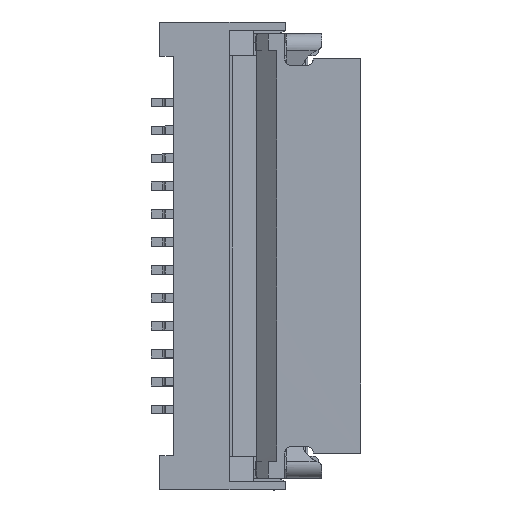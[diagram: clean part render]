
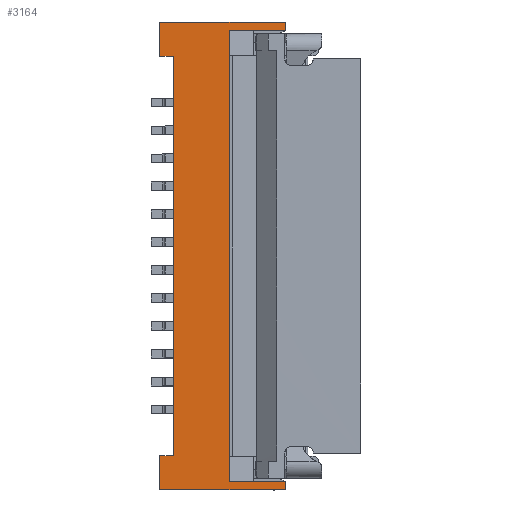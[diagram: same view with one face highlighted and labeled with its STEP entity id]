
A CAD part, top view. The second image highlights one B-rep face of the part: STEP entity #3164.
In plain terms, the highlighted planar face has unit normal (0, 0, 1).
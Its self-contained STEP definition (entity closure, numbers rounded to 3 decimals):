
#188 = CARTESIAN_POINT ( 'NONE',  ( -1.118, -3.776, -0.021 ) ) ;
#347 = VECTOR ( 'NONE', #13286, 1000. ) ;
#596 = DIRECTION ( 'NONE',  ( 0., 1., 0. ) ) ;
#614 = ORIENTED_EDGE ( 'NONE', *, *, #2924, .F. ) ;
#733 = LINE ( 'NONE', #5274, #1957 ) ;
#896 = PLANE ( 'NONE',  #5026 ) ;
#952 = ORIENTED_EDGE ( 'NONE', *, *, #14142, .T. ) ;
#1200 = CARTESIAN_POINT ( 'NONE',  ( 0.132, -11.386, -0.021 ) ) ;
#1308 = LINE ( 'NONE', #4665, #12135 ) ;
#1384 = EDGE_CURVE ( 'NONE', #12389, #5513, #6238, .T. ) ;
#1673 = VECTOR ( 'NONE', #5005, 1000. ) ;
#1835 = LINE ( 'NONE', #6376, #347 ) ;
#1957 = VECTOR ( 'NONE', #9804, 1000. ) ;
#2170 = VECTOR ( 'NONE', #6965, 1000. ) ;
#2193 = VECTOR ( 'NONE', #3763, 1000. ) ;
#2329 = EDGE_CURVE ( 'NONE', #5175, #12389, #7083, .T. ) ;
#2330 = ORIENTED_EDGE ( 'NONE', *, *, #3587, .F. ) ;
#2381 = ORIENTED_EDGE ( 'NONE', *, *, #10688, .T. ) ;
#2445 = VECTOR ( 'NONE', #4169, 1000. ) ;
#2454 = VECTOR ( 'NONE', #3917, 1000. ) ;
#2924 = EDGE_CURVE ( 'NONE', #5505, #11830, #11560, .T. ) ;
#2925 = EDGE_CURVE ( 'NONE', #11830, #8029, #8143, .T. ) ;
#2992 = EDGE_CURVE ( 'NONE', #4008, #14028, #1308, .T. ) ;
#3164 = ADVANCED_FACE ( 'NONE', ( #7577 ), #896, .F. ) ;
#3177 = ORIENTED_EDGE ( 'NONE', *, *, #7477, .F. ) ;
#3408 = DIRECTION ( 'NONE',  ( 0., 1., 0. ) ) ;
#3587 = EDGE_CURVE ( 'NONE', #8082, #6575, #733, .T. ) ;
#3749 = EDGE_CURVE ( 'NONE', #5505, #12913, #10606, .T. ) ;
#3763 = DIRECTION ( 'NONE',  ( 0., -1., 0. ) ) ;
#3813 = VECTOR ( 'NONE', #5917, 1000. ) ;
#3846 = CARTESIAN_POINT ( 'NONE',  ( -1.118, -11.536, -0.021 ) ) ;
#3917 = DIRECTION ( 'NONE',  ( 1., 0., 0. ) ) ;
#4008 = VERTEX_POINT ( 'NONE', #8970 ) ;
#4169 = DIRECTION ( 'NONE',  ( -1., 0., 0. ) ) ;
#4186 = VECTOR ( 'NONE', #11314, 1000. ) ;
#4188 = ORIENTED_EDGE ( 'NONE', *, *, #2992, .F. ) ;
#4407 = DIRECTION ( 'NONE',  ( 0., 1., 0. ) ) ;
#4522 = CARTESIAN_POINT ( 'NONE',  ( 1.132, -11.536, -0.021 ) ) ;
#4589 = DIRECTION ( 'NONE',  ( 0., -1., 0. ) ) ;
#4662 = CARTESIAN_POINT ( 'NONE',  ( 0.132, -11.386, -0.021 ) ) ;
#4665 = CARTESIAN_POINT ( 'NONE',  ( 0.132, -3.316, -0.021 ) ) ;
#5005 = DIRECTION ( 'NONE',  ( 0., -1., 0. ) ) ;
#5026 = AXIS2_PLACEMENT_3D ( 'NONE', #11224, #7656, #5508 ) ;
#5106 = CARTESIAN_POINT ( 'NONE',  ( -1.118, -3.776, -0.021 ) ) ;
#5175 = VERTEX_POINT ( 'NONE', #13436 ) ;
#5274 = CARTESIAN_POINT ( 'NONE',  ( 1.132, -3.166, -0.021 ) ) ;
#5505 = VERTEX_POINT ( 'NONE', #13566 ) ;
#5508 = DIRECTION ( 'NONE',  ( 0., -1., 0. ) ) ;
#5513 = VERTEX_POINT ( 'NONE', #6231 ) ;
#5589 = CARTESIAN_POINT ( 'NONE',  ( -1.118, -11.536, -0.021 ) ) ;
#5606 = CARTESIAN_POINT ( 'NONE',  ( -0.868, -10.926, -0.021 ) ) ;
#5720 = ORIENTED_EDGE ( 'NONE', *, *, #8733, .T. ) ;
#5917 = DIRECTION ( 'NONE',  ( 0., 1., 0. ) ) ;
#6231 = CARTESIAN_POINT ( 'NONE',  ( 1.132, -11.536, -0.021 ) ) ;
#6238 = LINE ( 'NONE', #3846, #12807 ) ;
#6376 = CARTESIAN_POINT ( 'NONE',  ( 1.132, -11.386, -0.021 ) ) ;
#6575 = VERTEX_POINT ( 'NONE', #11046 ) ;
#6712 = CARTESIAN_POINT ( 'NONE',  ( 1.132, -3.316, -0.021 ) ) ;
#6903 = LINE ( 'NONE', #4522, #12378 ) ;
#6965 = DIRECTION ( 'NONE',  ( -1., 0., 0. ) ) ;
#7083 = LINE ( 'NONE', #12662, #1673 ) ;
#7334 = CARTESIAN_POINT ( 'NONE',  ( -0.868, 6.224, -0.021 ) ) ;
#7477 = EDGE_CURVE ( 'NONE', #6575, #4008, #9902, .T. ) ;
#7552 = LINE ( 'NONE', #10818, #2454 ) ;
#7577 = FACE_OUTER_BOUND ( 'NONE', #12098, .T. ) ;
#7583 = CARTESIAN_POINT ( 'NONE',  ( 0.132, -11.386, -0.021 ) ) ;
#7641 = ORIENTED_EDGE ( 'NONE', *, *, #3749, .T. ) ;
#7656 = DIRECTION ( 'NONE',  ( 0., 0., -1. ) ) ;
#7775 = EDGE_CURVE ( 'NONE', #8029, #8082, #7552, .T. ) ;
#8003 = CARTESIAN_POINT ( 'NONE',  ( -0.868, -3.776, -0.021 ) ) ;
#8029 = VERTEX_POINT ( 'NONE', #11549 ) ;
#8082 = VERTEX_POINT ( 'NONE', #14162 ) ;
#8129 = CARTESIAN_POINT ( 'NONE',  ( 1.132, -11.386, -0.021 ) ) ;
#8143 = LINE ( 'NONE', #188, #3813 ) ;
#8156 = ORIENTED_EDGE ( 'NONE', *, *, #10701, .T. ) ;
#8190 = ORIENTED_EDGE ( 'NONE', *, *, #1384, .T. ) ;
#8225 = VECTOR ( 'NONE', #4407, 1000. ) ;
#8376 = DIRECTION ( 'NONE',  ( 1., 0., 0. ) ) ;
#8733 = EDGE_CURVE ( 'NONE', #14599, #8873, #1835, .T. ) ;
#8788 = VERTEX_POINT ( 'NONE', #14656 ) ;
#8833 = CARTESIAN_POINT ( 'NONE',  ( 0.132, -3.766, -0.021 ) ) ;
#8873 = VERTEX_POINT ( 'NONE', #4662 ) ;
#8933 = LINE ( 'NONE', #5606, #4186 ) ;
#8970 = CARTESIAN_POINT ( 'NONE',  ( 0.132, -3.316, -0.021 ) ) ;
#9804 = DIRECTION ( 'NONE',  ( 0., -1., 0. ) ) ;
#9902 = LINE ( 'NONE', #6712, #2445 ) ;
#10030 = ORIENTED_EDGE ( 'NONE', *, *, #7775, .F. ) ;
#10606 = LINE ( 'NONE', #7334, #2193 ) ;
#10688 = EDGE_CURVE ( 'NONE', #12913, #5175, #8933, .T. ) ;
#10701 = EDGE_CURVE ( 'NONE', #8788, #14028, #12364, .T. ) ;
#10818 = CARTESIAN_POINT ( 'NONE',  ( -1.118, -3.166, -0.021 ) ) ;
#10939 = EDGE_CURVE ( 'NONE', #8873, #8788, #13092, .T. ) ;
#11046 = CARTESIAN_POINT ( 'NONE',  ( 1.132, -3.316, -0.021 ) ) ;
#11224 = CARTESIAN_POINT ( 'NONE',  ( 0., 0., -0.021 ) ) ;
#11314 = DIRECTION ( 'NONE',  ( -1., 0., 0. ) ) ;
#11549 = CARTESIAN_POINT ( 'NONE',  ( -1.118, -3.166, -0.021 ) ) ;
#11560 = LINE ( 'NONE', #8003, #2170 ) ;
#11802 = ORIENTED_EDGE ( 'NONE', *, *, #2329, .T. ) ;
#11830 = VERTEX_POINT ( 'NONE', #5106 ) ;
#12023 = VECTOR ( 'NONE', #596, 1000. ) ;
#12098 = EDGE_LOOP ( 'NONE', ( #7641, #2381, #11802, #8190, #952, #5720, #14500, #8156, #4188, #3177, #2330, #10030, #14727, #614 ) ) ;
#12135 = VECTOR ( 'NONE', #4589, 1000. ) ;
#12364 = LINE ( 'NONE', #1200, #8225 ) ;
#12378 = VECTOR ( 'NONE', #3408, 1000. ) ;
#12389 = VERTEX_POINT ( 'NONE', #5589 ) ;
#12662 = CARTESIAN_POINT ( 'NONE',  ( -1.118, -10.926, -0.021 ) ) ;
#12807 = VECTOR ( 'NONE', #8376, 1000. ) ;
#12913 = VERTEX_POINT ( 'NONE', #14728 ) ;
#13092 = LINE ( 'NONE', #7583, #12023 ) ;
#13286 = DIRECTION ( 'NONE',  ( -1., 0., 0. ) ) ;
#13436 = CARTESIAN_POINT ( 'NONE',  ( -1.118, -10.926, -0.021 ) ) ;
#13566 = CARTESIAN_POINT ( 'NONE',  ( -0.868, -3.776, -0.021 ) ) ;
#14028 = VERTEX_POINT ( 'NONE', #8833 ) ;
#14142 = EDGE_CURVE ( 'NONE', #5513, #14599, #6903, .T. ) ;
#14162 = CARTESIAN_POINT ( 'NONE',  ( 1.132, -3.166, -0.021 ) ) ;
#14500 = ORIENTED_EDGE ( 'NONE', *, *, #10939, .T. ) ;
#14599 = VERTEX_POINT ( 'NONE', #8129 ) ;
#14656 = CARTESIAN_POINT ( 'NONE',  ( 0.132, -10.936, -0.021 ) ) ;
#14727 = ORIENTED_EDGE ( 'NONE', *, *, #2925, .F. ) ;
#14728 = CARTESIAN_POINT ( 'NONE',  ( -0.868, -10.926, -0.021 ) ) ;
